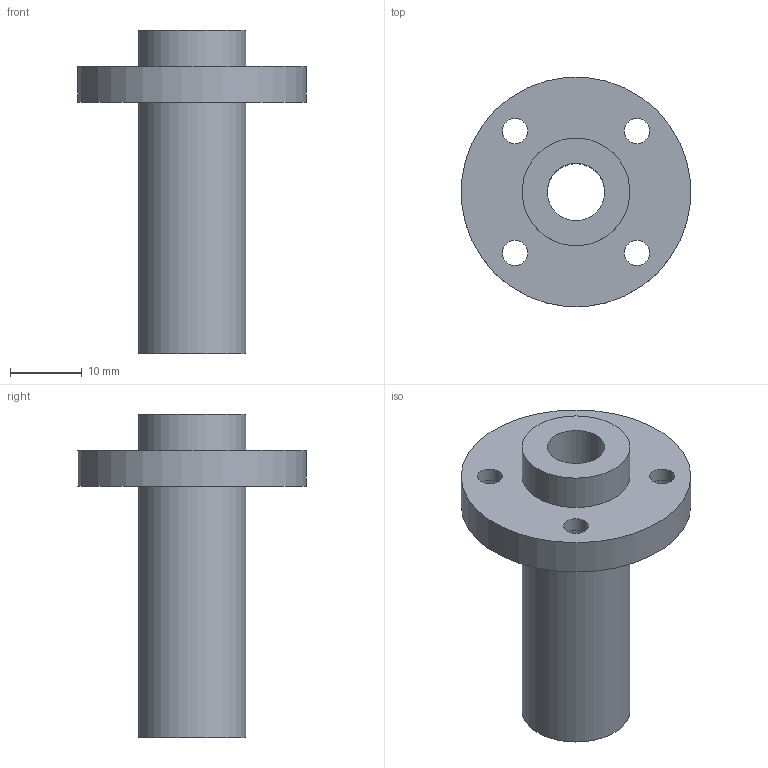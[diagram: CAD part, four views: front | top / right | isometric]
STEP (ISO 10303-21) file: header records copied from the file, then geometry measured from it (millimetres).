
FILE_DESCRIPTION(/* description */ (''),/* implementation_level */ '2;1');
FILE_NAME(/* name */ 'LMFP8LUU',/* time_stamp */ '2019-07-03T13:01:34+02:00',/* author */ ('VĂ©gh MĂˇtĂ©'),/* organization */ ('Bearing Kft'),/* preprocessor_version */ 'ST-DEVELOPER v16.7',/* originating_system */ 'DEX',/* authorisation */ $);
FILE_SCHEMA (('AUTOMOTIVE_DESIGN {1 0 10303 214 3 1 1}'));
Length unit declared in the file: millimetre
Products named in the file (1): LMFP8LUU
Bounding box: 31.88 x 31.88 x 45 mm (x, y, z)
Volume: 8403.5 mm3; surface area: 5277.4 mm2
Topology: 1 solids, 1 shells, 332 faces, 829 edges, 554 vertices
Faces by surface type: plane 253, bspline 65, cylinder 14
Full cylindrical faces by diameter (mm): 3.5 x4, 6 x4, 8 x1, 15 x2, 32 x1
Entity records: 12336 total; most frequent: CARTESIAN_POINT 4832, ORIENTED_EDGE 1620, DIRECTION 1244, EDGE_CURVE 810, LINE 652, VECTOR 652, VERTEX_POINT 550, EDGE_LOOP 412
